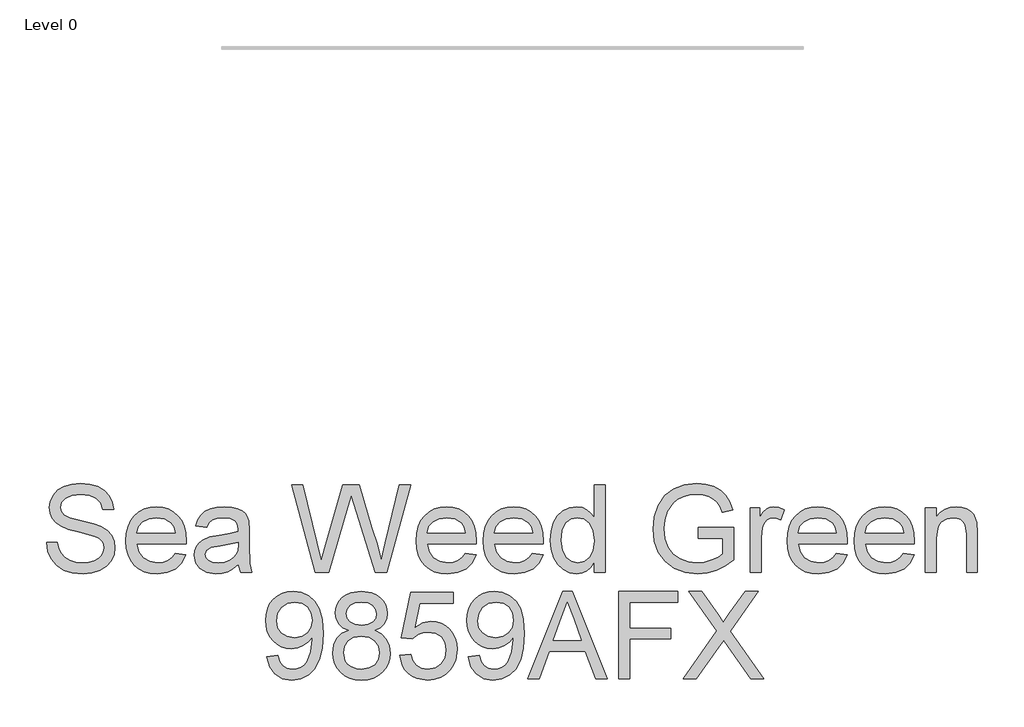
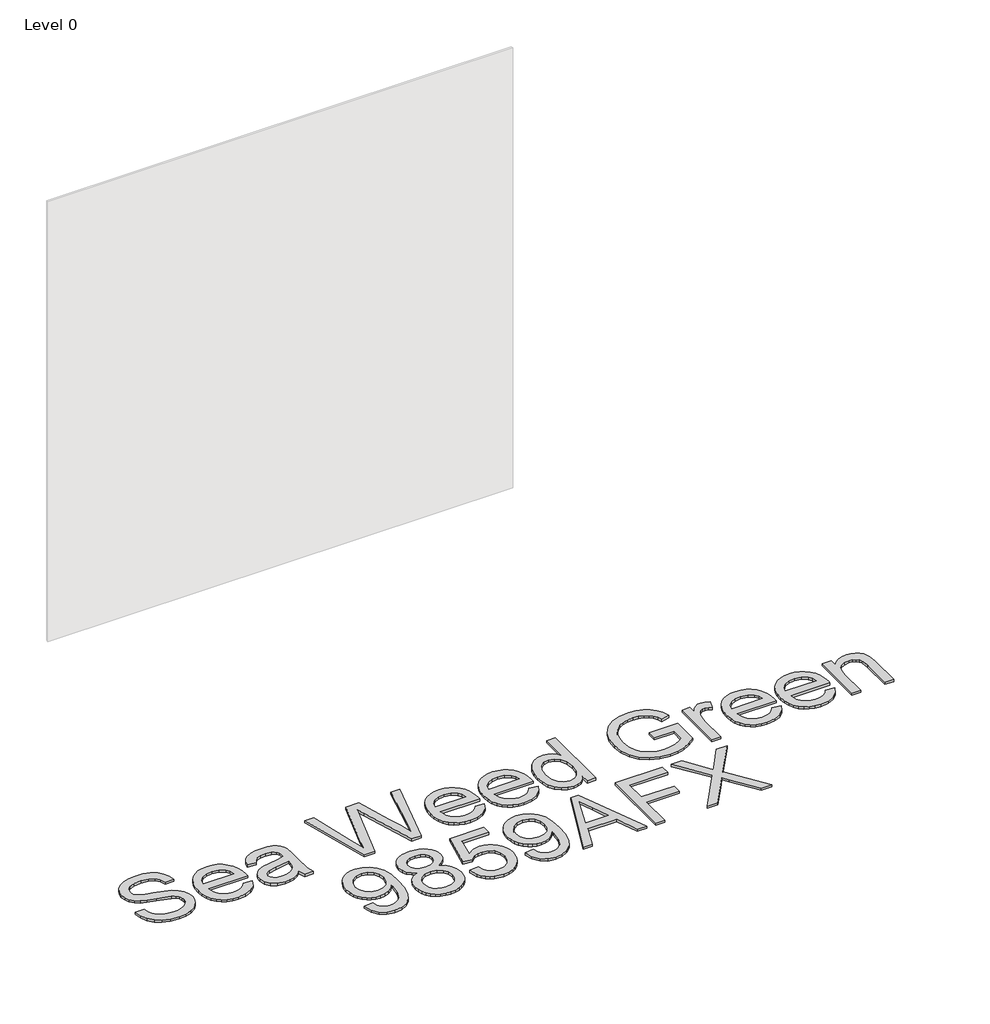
# One storey, part 6 of 10: 1 proxy.
"""IFC4 building model written with IfcOpenShell, lengths in millimetres."""

from ifc_helpers import new_model, si_unit, origin, origin_with_axes, place, context, project, spatial, polyline, outline, extrude, element, save

model = new_model("IFC4")

# Units and contexts
model_context = context("Model", 3, world=origin())
ifc_project = project(units=[si_unit("LENGTHUNIT", "METRE", prefix="MILLI")], contexts=[model_context])

# Site, building, storey
site = spatial("IfcSite", under=ifc_project)
building = spatial("IfcBuilding", under=site)
storey = spatial("IfcBuildingStorey", under=building, Name="Level 0", Elevation=0.0)

# Proxy
placement = place(None, origin())
element("IfcBuildingElementProxy", 1, Name="300mm Arial", ObjectType="300mm Arial", at=placement, inside=storey, context=model_context, shape_type="SweptSolid", body=[
    extrude(outline(polyline([(3945.9650559, -11909.2649241), (3983.6361722, -11909.2649241), (3987.9587857, -11930.1698185), (3995.7762781, -11946.9728286), (4007.9715662, -11960.308551), (4025.4275669, -11970.8115819), (4046.7647226, -11977.6265959), (4070.6034759, -11979.8982672), (4091.5911437, -11978.1784189), (4109.9668494, -11973.0188739), (4124.8568731, -11964.8518936), (4135.3874952, -11954.1097394), (4141.6506862, -11941.7764955), (4143.7384165, -11928.8362463), (4142.174918, -11916.2270909), (4137.4844226, -11905.3285868), (4127.9562789, -11896.0303694), (4111.8798357, -11888.222074), (4057.0286303, -11873.837888), (4021.02218, -11864.3189414), (3997.98357, -11855.2598472), (3979.2307853, -11842.5863125), (3965.9410483, -11827.2272392), (3958.0223883, -11809.5137211), (3955.382835, -11789.7768521), (3958.6477877, -11767.7131294), (3968.4426458, -11747.1393289), (3984.509892, -11729.7017223), (4006.5920087, -11717.0465817), (4033.0979065, -11709.3486509), (4062.4364956, -11706.782674), (4094.2215, -11709.4682126), (4122.0333788, -11717.5248283), (4144.8788507, -11730.7869742), (4161.7646343, -11749.0891034), (4172.4516062, -11771.2907818), (4176.7006433, -11796.2515752), (4139.029527, -11796.2515752), (4132.1133455, -11773.7739853), (4117.6923713, -11757.5503893), (4095.1595991, -11747.7279401), (4063.9080236, -11744.4537903), (4031.9206841, -11747.6911519), (4009.9765231, -11757.4032365), (3997.2845942, -11771.695452), (3993.0539513, -11788.6732061), (3996.0521896, -11803.1493626), (4005.0469043, -11814.7928278), (4026.3104837, -11825.2038882), (4066.5567739, -11835.8356779), (4108.0906512, -11845.9340387), (4133.2169915, -11854.7448125), (4154.6921029, -11868.4116286), (4169.6740972, -11885.2790181), (4178.4756739, -11905.1630399), (4181.4095328, -11927.8797531), (4178.0342155, -11951.102304), (4167.9082636, -11972.9452975), (4151.4455443, -11991.7440675), (4129.0599249, -12005.8339479), (4102.1401599, -12014.6355246), (4072.0750039, -12017.5693835), (4035.1672427, -12014.4055984), (4004.7893869, -12004.9142429), (3980.5919487, -11989.0585289), (3962.2254401, -11966.8016682), (3950.4348222, -11939.6887651), (3945.9650559, -11909.2649241)])), origin_with_axes(), (0.0, 0.0, 1.0), 10.0),
    extrude(outline(polyline([(4388.1592141, -11946.9360404), (4425.0945664, -11951.64493), (4411.7864353, -11979.4752029), (4390.5504471, -12000.2789297), (4361.8648485, -12013.2467701), (4326.2078861, -12017.5693835), (4302.8335839, -12015.7046817), (4282.0068644, -12010.1105761), (4263.7277278, -12000.7870668), (4247.996174, -11987.7341537), (4235.3456318, -11971.3151204), (4226.3095303, -11951.8932503), (4220.8878694, -11929.4685435), (4219.0806491, -11904.0409998), (4220.9062635, -11877.7512327), (4226.3831067, -11854.5792656), (4235.5111787, -11834.5250983), (4248.2904796, -11817.5887309), (4263.9806466, -11804.133447), (4281.8413175, -11794.5225298), (4301.8724921, -11788.7559796), (4324.0741706, -11786.8337961), (4345.5607783, -11788.751381), (4364.9918455, -11794.5041357), (4382.367372, -11804.0920602), (4397.6873578, -11817.5151545), (4410.1930464, -11834.4147337), (4419.1256811, -11854.4321128), (4424.4852619, -11877.5672917), (4426.2717888, -11903.8202706), (4426.0510596, -11913.9738137), (4256.7517654, -11913.9738137), (4263.2724738, -11942.1719686), (4278.420015, -11962.902119), (4300.2814025, -11975.6492302), (4326.9436501, -11979.8982672), (4346.9932189, -11977.9300985), (4363.8790024, -11972.0255925), (4377.6010009, -11961.8168672), (4388.1592141, -11946.9360404)]), holes=[polyline([(4256.7517654, -11876.3026974), (4388.6006725, -11876.3026974), (4383.5055069, -11856.4002814), (4373.5175107, -11842.1632482), (4351.5549556, -11828.9194964), (4323.9270178, -11824.5049125), (4298.533963, -11828.0273826), (4277.5370982, -11838.5947929), (4262.94138, -11855.0667092), (4256.7517654, -11876.3026974)])]), origin_with_axes(), (0.0, 0.0, 1.0), 10.0),
    extrude(outline(polyline([(4605.2095913, -11984.6071568), (4587.2109647, -12000.0398064), (4568.6789091, -12010.1381672), (4549.1903605, -12015.7115794), (4528.3222543, -12017.5693835), (4496.8407525, -12013.0996173), (4473.6182016, -11999.6903186), (4459.2983949, -11979.3280501), (4454.525126, -11953.9993748), (4456.3277478, -11938.3827841), (4461.7356132, -11924.2009331), (4470.0773374, -11912.0608273), (4480.6815359, -11902.5694718), (4507.058675, -11890.2086368), (4539.6530197, -11884.5432541), (4578.1702646, -11878.5835657), (4604.9888621, -11871.5938078), (4605.2095913, -11863.2060983), (4602.6160232, -11846.3938912), (4594.835319, -11835.3942195), (4577.4345006, -11827.2272392), (4553.1910772, -11824.5049125), (4530.7502754, -11826.3167313), (4515.0785025, -11831.7521878), (4504.3915305, -11841.8045633), (4496.9051319, -11857.4671392), (4459.2340156, -11852.7582497), (4465.773118, -11832.156858), (4475.531188, -11815.9700502), (4489.4187333, -11803.590821), (4508.3462619, -11794.4121652), (4531.4952365, -11788.7283884), (4558.0471195, -11786.8337961), (4583.5137506, -11788.5076592), (4603.7012751, -11793.5292485), (4618.9223926, -11801.0800264), (4629.489803, -11810.3414556), (4636.497955, -11821.7917827), (4641.0412976, -11835.9092543), (4642.8807076, -11868.8714811), (4642.8807076, -11915.7396473), (4644.793694, -11981.1858542), (4652.2984867, -12012.860494), (4614.6273703, -12012.860494), (4605.2095913, -11984.6071568)]), holes=[polyline([(4605.2095913, -11909.2649241), (4544.4354857, -11920.8164188), (4512.0250819, -11926.9232599), (4497.3465903, -11936.8560738), (4492.1962424, -11951.3506244), (4495.0013426, -11962.5526311), (4503.4166432, -11971.7312869), (4517.2582033, -11977.8565221), (4536.3420818, -11979.8982672), (4556.5755915, -11977.64499), (4574.4546565, -11970.8851583), (4588.9492071, -11960.9247533), (4599.0291738, -11949.069756), (4603.49894, -11936.8560738), (4604.9888621, -11919.933502), (4605.2095913, -11909.2649241)])]), origin_with_axes(), (0.0, 0.0, 1.0), 10.0),
    extrude(outline(polyline([(4871.041121, -12012.860494), (4788.8562833, -11711.4915635), (4827.704622, -11711.4915635), (4875.3821285, -11909.5592297), (4890.0974083, -11970.7012173), (4905.8427577, -11916.622564), (4965.5867937, -11711.4915635), (5021.5784334, -11711.4915635), (5064.9885088, -11860.189466), (5083.5849437, -11915.3717653), (5097.288548, -11970.7012173), (5111.5623694, -11911.3250633), (5159.6813344, -11711.4915635), (5198.5296731, -11711.4915635), (5116.271259, -12012.860494), (5076.0249687, -12012.860494), (5003.7729448, -11780.359073), (4993.6929782, -11747.9118811), (4982.3622127, -11786.9809489), (4916.5113356, -12012.860494), (4871.041121, -12012.860494)])), origin_with_axes(), (0.0, 0.0, 1.0), 10.0),
    extrude(outline(polyline([(5386.4437962, -11946.9360404), (5423.3791485, -11951.64493), (5410.0710174, -11979.4752029), (5388.8350292, -12000.2789297), (5360.1494306, -12013.2467701), (5324.4924682, -12017.5693835), (5301.118166, -12015.7046817), (5280.2914465, -12010.1105761), (5262.0123099, -12000.7870668), (5246.2807561, -11987.7341537), (5233.630214, -11971.3151204), (5224.5941125, -11951.8932503), (5219.1724515, -11929.4685435), (5217.3652312, -11904.0409998), (5219.1908456, -11877.7512327), (5224.6676888, -11854.5792656), (5233.7957609, -11834.5250983), (5246.5750617, -11817.5887309), (5262.2652288, -11804.133447), (5280.1258996, -11794.5225298), (5300.1570743, -11788.7559796), (5322.3587527, -11786.8337961), (5343.8453604, -11788.751381), (5363.2764276, -11794.5041357), (5380.6519541, -11804.0920602), (5395.9719399, -11817.5151545), (5408.4776285, -11834.4147337), (5417.4102632, -11854.4321128), (5422.769844, -11877.5672917), (5424.5563709, -11903.8202706), (5424.3356417, -11913.9738137), (5255.0363476, -11913.9738137), (5261.5570559, -11942.1719686), (5276.7045971, -11962.902119), (5298.5659846, -11975.6492302), (5325.2282322, -11979.8982672), (5345.277801, -11977.9300985), (5362.1635845, -11972.0255925), (5375.885583, -11961.8168672), (5386.4437962, -11946.9360404)]), holes=[polyline([(5255.0363476, -11876.3026974), (5386.8852546, -11876.3026974), (5381.790089, -11856.4002814), (5371.8020928, -11842.1632482), (5349.8395377, -11828.9194964), (5322.2115999, -11824.5049125), (5296.8185452, -11828.0273826), (5275.8216803, -11838.5947929), (5261.2259621, -11855.0667092), (5255.0363476, -11876.3026974)])]), origin_with_axes(), (0.0, 0.0, 1.0), 10.0),
    extrude(outline(polyline([(5617.1793836, -11946.9360404), (5654.1147359, -11951.64493), (5640.8066047, -11979.4752029), (5619.5706166, -12000.2789297), (5590.885018, -12013.2467701), (5555.2280556, -12017.5693835), (5531.8537533, -12015.7046817), (5511.0270339, -12010.1105761), (5492.7478973, -12000.7870668), (5477.0163434, -11987.7341537), (5464.3658013, -11971.3151204), (5455.3296998, -11951.8932503), (5449.9080389, -11929.4685435), (5448.1008186, -11904.0409998), (5449.926433, -11877.7512327), (5455.4032762, -11854.5792656), (5464.5313482, -11834.5250983), (5477.310649, -11817.5887309), (5493.0008161, -11804.133447), (5510.861487, -11794.5225298), (5530.8926616, -11788.7559796), (5553.09434, -11786.8337961), (5574.5809478, -11788.751381), (5594.012015, -11794.5041357), (5611.3875414, -11804.0920602), (5626.7075273, -11817.5151545), (5639.2132159, -11834.4147337), (5648.1458505, -11854.4321128), (5653.5054314, -11877.5672917), (5655.2919583, -11903.8202706), (5655.0712291, -11913.9738137), (5485.7719349, -11913.9738137), (5492.2926433, -11942.1719686), (5507.4401844, -11962.902119), (5529.301572, -11975.6492302), (5555.9638196, -11979.8982672), (5576.0133883, -11977.9300985), (5592.8991719, -11972.0255925), (5606.6211703, -11961.8168672), (5617.1793836, -11946.9360404)]), holes=[polyline([(5485.7719349, -11876.3026974), (5617.620842, -11876.3026974), (5612.5256764, -11856.4002814), (5602.5376802, -11842.1632482), (5580.5751251, -11828.9194964), (5552.9471872, -11824.5049125), (5527.5541325, -11828.0273826), (5506.5572677, -11838.5947929), (5491.9615495, -11855.0667092), (5485.7719349, -11876.3026974)])]), origin_with_axes(), (0.0, 0.0, 1.0), 10.0),
    extrude(outline(polyline([(5829.5208712, -12012.860494), (5829.5208712, -11977.3230932), (5818.2498866, -11994.9308452), (5804.596866, -12007.507811), (5788.5618096, -12015.0539904), (5770.1447172, -12017.5693835), (5745.7909291, -12013.9273518), (5723.4972802, -12003.0012565), (5704.6249339, -11985.5544529), (5690.5350534, -11962.350296), (5681.7610679, -11934.3268851), (5678.836406, -11902.422319), (5681.5311416, -11870.9132261), (5689.6153485, -11842.4575538), (5703.0798295, -11818.6739828), (5721.9153876, -11801.181194), (5744.6964802, -11790.4206456), (5769.9975644, -11786.8337961), (5788.4284524, -11789.3997731), (5804.7256247, -11797.0977038), (5818.5395937, -11808.8975188), (5829.5208712, -11823.7691485), (5829.5208712, -11711.4915635), (5867.1919875, -11711.4915635), (5867.1919875, -12012.860494), (5829.5208712, -12012.860494)]), holes=[polyline([(5716.5075223, -11902.2751662), (5720.7565593, -11936.350236), (5733.5036705, -11960.5844625), (5752.0265289, -11975.069816), (5773.602808, -11979.8982672), (5795.1698899, -11975.2905452), (5813.2236988, -11961.4673793), (5825.4465781, -11938.1712519), (5829.5208712, -11905.1446458), (5825.3730017, -11869.037028), (5812.9293932, -11844.0026582), (5794.4157318, -11829.3793489), (5772.0577036, -11824.5049125), (5750.2606954, -11829.1862108), (5732.4000245, -11843.230106), (5720.4806478, -11867.3539678), (5716.5075223, -11902.2751662)])]), origin_with_axes(), (0.0, 0.0, 1.0), 10.0),
    extrude(outline(polyline([(6187.3964761, -11895.1382555), (6187.3964761, -11857.4671392), (6309.8276041, -11857.4671392), (6309.8276041, -11970.1126061), (6280.0751478, -11990.8059684), (6249.3845923, -12005.6500069), (6217.8295142, -12014.5895394), (6185.4834898, -12017.5693835), (6143.2230456, -12012.8329028), (6105.0276974, -11998.6234608), (6073.2978753, -11975.437698), (6050.4340093, -11943.7722553), (6036.6108434, -11905.7884393), (6032.0031214, -11863.6475567), (6036.5924493, -11821.2031715), (6050.3604329, -11781.7202364), (6072.7368553, -11748.6016598), (6103.1514992, -11725.2503502), (6140.1972161, -11711.399593), (6182.4668574, -11706.782674), (6213.4977037, -11709.4590155), (6241.401553, -11717.4880401), (6264.9000155, -11730.2903335), (6282.7147011, -11747.2864817), (6295.8940736, -11769.295022), (6305.4865966, -11797.134492), (6270.7585362, -11806.9201531), (6263.0054232, -11787.0637224), (6253.5784471, -11772.0817281), (6241.1072474, -11760.7877509), (6224.2214638, -11751.9953712), (6204.0891217, -11746.3391855), (6181.8782462, -11744.4537903), (6155.8781862, -11746.4863383), (6133.6489166, -11752.5839824), (6115.273211, -11761.9833674), (6100.8338427, -11773.9211381), (6081.4464615, -11802.9470275), (6072.6172936, -11831.3843058), (6069.6742377, -11862.1024524), (6073.2151019, -11898.1272967), (6083.8376945, -11927.7693885), (6101.2201188, -11950.8171955), (6125.0404779, -11967.0591856), (6152.9167361, -11976.6884968), (6182.4668574, -11979.8982672), (6208.5588879, -11977.4794431), (6234.0071249, -11970.2229707), (6256.1076358, -11960.2257775), (6272.1564878, -11949.5847908), (6272.1564878, -11895.1382555), (6187.3964761, -11895.1382555)])), origin_with_axes(), (0.0, 0.0, 1.0), 10.0),
    extrude(outline(polyline([(6366.3342786, -12012.860494), (6366.3342786, -11791.5426857), (6399.2965053, -11791.5426857), (6399.2965053, -11824.2841833), (6411.4733994, -11805.3014723), (6422.6938002, -11794.1178596), (6433.9509893, -11788.654812), (6446.2382479, -11786.8337961), (6465.0002297, -11789.7400639), (6484.056517, -11798.4588672), (6471.4749528, -11832.2304343), (6458.231201, -11826.4362929), (6444.9874492, -11824.5049125), (6433.7394571, -11826.3627165), (6423.6870816, -11831.9361288), (6415.5660866, -11840.8020848), (6410.112236, -11852.5375205), (6405.5321052, -11873.5803706), (6404.0053949, -11896.5362071), (6404.0053949, -12012.860494), (6366.3342786, -12012.860494)])), origin_with_axes(), (0.0, 0.0, 1.0), 10.0),
    extrude(outline(polyline([(6662.5528611, -11946.9360404), (6699.4882134, -11951.64493), (6686.1800822, -11979.4752029), (6664.9440941, -12000.2789297), (6636.2584955, -12013.2467701), (6600.6015331, -12017.5693835), (6577.2272308, -12015.7046817), (6556.4005114, -12010.1105761), (6538.1213748, -12000.7870668), (6522.3898209, -11987.7341537), (6509.7392788, -11971.3151204), (6500.7031773, -11951.8932503), (6495.2815164, -11929.4685435), (6493.4742961, -11904.0409998), (6495.2999105, -11877.7512327), (6500.7767537, -11854.5792656), (6509.9048257, -11834.5250983), (6522.6841265, -11817.5887309), (6538.3742936, -11804.133447), (6556.2349645, -11794.5225298), (6576.2661391, -11788.7559796), (6598.4678175, -11786.8337961), (6619.9544253, -11788.751381), (6639.3854925, -11794.5041357), (6656.7610189, -11804.0920602), (6672.0810048, -11817.5151545), (6684.5866933, -11834.4147337), (6693.519328, -11854.4321128), (6698.8789089, -11877.5672917), (6700.6654358, -11903.8202706), (6700.4447066, -11913.9738137), (6531.1454124, -11913.9738137), (6537.6661208, -11942.1719686), (6552.8136619, -11962.902119), (6574.6750495, -11975.6492302), (6601.3372971, -11979.8982672), (6621.3868658, -11977.9300985), (6638.2726494, -11972.0255925), (6651.9946478, -11961.8168672), (6662.5528611, -11946.9360404)]), holes=[polyline([(6531.1454124, -11876.3026974), (6662.9943195, -11876.3026974), (6657.8991539, -11856.4002814), (6647.9111577, -11842.1632482), (6625.9486026, -11828.9194964), (6598.3206647, -11824.5049125), (6572.92761, -11828.0273826), (6551.9307451, -11838.5947929), (6537.335027, -11855.0667092), (6531.1454124, -11876.3026974)])]), origin_with_axes(), (0.0, 0.0, 1.0), 10.0),
    extrude(outline(polyline([(6893.2884485, -11946.9360404), (6930.2238008, -11951.64493), (6916.9156696, -11979.4752029), (6895.6796814, -12000.2789297), (6866.9940829, -12013.2467701), (6831.3371205, -12017.5693835), (6807.9628182, -12015.7046817), (6787.1360988, -12010.1105761), (6768.8569621, -12000.7870668), (6753.1254083, -11987.7341537), (6740.4748662, -11971.3151204), (6731.4387647, -11951.8932503), (6726.0171038, -11929.4685435), (6724.2098835, -11904.0409998), (6726.0354979, -11877.7512327), (6731.5123411, -11854.5792656), (6740.6404131, -11834.5250983), (6753.4197139, -11817.5887309), (6769.109881, -11804.133447), (6786.9705519, -11794.5225298), (6807.0017265, -11788.7559796), (6829.2034049, -11786.8337961), (6850.6900127, -11788.751381), (6870.1210798, -11794.5041357), (6887.4966063, -11804.0920602), (6902.8165921, -11817.5151545), (6915.3222807, -11834.4147337), (6924.2549154, -11854.4321128), (6929.6144962, -11877.5672917), (6931.4010232, -11903.8202706), (6931.180294, -11913.9738137), (6761.8809998, -11913.9738137), (6768.4017082, -11942.1719686), (6783.5492493, -11962.902119), (6805.4106369, -11975.6492302), (6832.0728845, -11979.8982672), (6852.1224532, -11977.9300985), (6869.0082368, -11972.0255925), (6882.7302352, -11961.8168672), (6893.2884485, -11946.9360404)]), holes=[polyline([(6761.8809998, -11876.3026974), (6893.7299069, -11876.3026974), (6888.6347412, -11856.4002814), (6878.6467451, -11842.1632482), (6856.68419, -11828.9194964), (6829.0562521, -11824.5049125), (6803.6631974, -11828.0273826), (6782.6663325, -11838.5947929), (6768.0706144, -11855.0667092), (6761.8809998, -11876.3026974)])]), origin_with_axes(), (0.0, 0.0, 1.0), 10.0),
    extrude(outline(polyline([(6969.0721395, -12012.860494), (6969.0721395, -11791.5426857), (7006.7432558, -11791.5426857), (7006.7432558, -11822.4447733), (7019.8306578, -11806.8649708), (7035.548416, -11795.7365404), (7053.8965305, -11789.0594822), (7074.8750013, -11786.8337961), (7093.443845, -11788.6272209), (7110.4491902, -11794.0074951), (7124.6310411, -11802.303234), (7134.7294019, -11812.8430532), (7146.0233792, -11840.5445674), (7148.0099419, -11876.964885), (7148.0099419, -12012.860494), (7110.3388256, -12012.860494), (7110.3388256, -11882.0416565), (7105.9978181, -11848.7115477), (7099.9921445, -11838.7879309), (7090.6571389, -11831.0900002), (7078.691777, -11826.1511844), (7064.7950346, -11824.5049125), (7042.731312, -11828.2021265), (7023.923345, -11839.2937687), (7016.4070559, -11848.3482643), (7011.0382781, -11860.7228949), (7006.7432558, -11895.4325611), (7006.7432558, -12012.860494), (6969.0721395, -12012.860494)])), origin_with_axes(), (0.0, 0.0, 1.0), 10.0),
    extrude(outline(polyline([(4704.0962716, -12303.4427149), (4741.7673879, -12298.7338254), (4748.2053228, -12320.1169663), (4758.6899597, -12334.6758963), (4772.9637811, -12343.0360146), (4790.7692696, -12345.8227207), (4806.7445453, -12344.029296), (4821.266687, -12338.6490218), (4833.3332165, -12330.2705094), (4841.9416552, -12319.4823699), (4854.265702, -12286.7408723), (4859.7103555, -12243.0364913), (4859.4896263, -12235.6788514), (4846.4390126, -12251.6081418), (4829.3600909, -12264.2264942), (4809.4852661, -12272.4486568), (4788.0469429, -12275.1893777), (4770.1517831, -12273.5155146), (4753.6959616, -12268.4939254), (4738.6794784, -12260.12461), (4725.1023335, -12248.4075684), (4713.8520422, -12233.9544045), (4705.8161199, -12217.3767221), (4700.9945665, -12198.6745212), (4699.387382, -12177.8478018), (4701.0727414, -12156.326705), (4706.1288196, -12137.0129003), (4714.5556165, -12119.9063875), (4726.3531323, -12105.0071667), (4740.6890338, -12092.9360387), (4756.730988, -12084.3138045), (4774.478995, -12079.1404639), (4793.9330548, -12077.4160171), (4822.0300422, -12081.3523544), (4847.6070379, -12093.1613665), (4868.9993759, -12112.254442), (4884.5423902, -12138.0429699), (4894.0061545, -12173.6907352), (4897.1607426, -12222.3615232), (4894.0153516, -12273.96617), (4884.5791784, -12313.8537754), (4868.9349966, -12343.8269609), (4847.1655795, -12365.6883485), (4820.2090263, -12379.0424649), (4789.0034361, -12383.4938371), (4756.7953674, -12378.2423216), (4731.09881, -12362.4877751), (4713.1277746, -12337.2234791), (4704.0962716, -12303.4427149)]), holes=[polyline([(4859.4896263, -12176.964885), (4855.4245303, -12151.4338745), (4843.2292422, -12131.788976), (4824.3017135, -12119.262594), (4800.0398959, -12115.0871334), (4774.8767674, -12119.5844908), (4754.7168341, -12133.0765629), (4741.4730823, -12153.7239399), (4737.0584983, -12179.6872117), (4741.233959, -12202.964945), (4753.7603409, -12221.4418182), (4773.4236336, -12233.4991506), (4799.0098263, -12237.5182614), (4823.0785059, -12233.4991506), (4842.45669, -12221.4418182), (4855.2313922, -12202.2843633), (4859.4896263, -12176.964885)])]), origin_with_axes(), (0.0, 0.0, 1.0), 10.0),
    extrude(outline(polyline([(4985.0109631, -12212.7965913), (4964.8418327, -12202.8637774), (4950.6875729, -12189.3992964), (4942.3274546, -12172.6790597), (4939.5407485, -12152.9789789), (4941.0582617, -12137.6153071), (4945.6108014, -12123.5300252), (4953.1983676, -12110.7231332), (4963.8209602, -12099.1946312), (4976.968143, -12089.6664875), (4992.1294797, -12082.8606706), (5028.4946149, -12077.4160171), (5065.0804793, -12082.9894293), (5080.407363, -12089.9561946), (5093.7568809, -12099.709666), (5104.5726115, -12111.4634957), (5112.2981334, -12124.4313361), (5116.9334466, -12138.613187), (5118.4785509, -12154.0090485), (5115.728633, -12173.0745329), (5107.4788793, -12189.509661), (5093.6373192, -12202.8913686), (5074.1119823, -12212.7965913), (5097.2977451, -12224.7435591), (5114.1743316, -12242.3375155), (5124.4658304, -12264.732332), (5127.89633, -12291.0818799), (5126.1948758, -12309.8714528), (5121.0905131, -12327.0975272), (5112.583242, -12342.7601031), (5100.6730624, -12356.8591806), (5085.9853737, -12368.5118428), (5069.1455754, -12376.8351729), (5050.1536674, -12381.829171), (5029.0096497, -12383.4938371), (5007.865632, -12381.8222732), (4988.873724, -12376.8075818), (4972.0339257, -12368.4497627), (4957.3462371, -12356.748816), (4945.4360575, -12342.5508703), (4936.9287863, -12326.702054), (4931.8244236, -12309.2023674), (4930.1229694, -12290.0518103), (4933.6914248, -12262.6813898), (4944.3967908, -12240.1670117), (4961.6872446, -12223.2812282), (4985.0109631, -12212.7965913)]), holes=[polyline([(4977.2118648, -12154.0826249), (4980.5503939, -12170.52695), (4990.5659812, -12183.6603373), (5006.9643212, -12192.268776), (5029.4511081, -12195.1382555), (5051.4136632, -12192.2871701), (5067.5636828, -12183.7339137), (5077.4964967, -12171.0419848), (5080.8074346, -12155.774882), (5077.3861321, -12139.9283651), (5067.1222244, -12126.822569), (5050.7514756, -12118.0209923), (5029.0096497, -12115.0871334), (5007.1298681, -12117.9566129), (4990.7867104, -12126.5650516), (4980.6055762, -12139.1834041), (4977.2118648, -12154.0826249)]), polyline([(4967.7940857, -12288.7274351), (4974.0848678, -12317.0911369), (4982.7944741, -12329.2588339), (4996.3417285, -12338.317928), (5012.5653245, -12343.9465226), (5029.3039553, -12345.8227207), (5054.9453304, -12341.8771864), (5074.1855587, -12330.0405832), (5086.2153, -12312.1155329), (5090.2252137, -12289.9046575), (5086.0865413, -12267.316703), (5073.6705239, -12248.9961796), (5053.9888372, -12236.8560738), (5028.0531565, -12232.8093718), (5002.7704664, -12236.8008915), (4983.7233761, -12248.7754504), (4971.7764083, -12266.7464859), (4967.7940857, -12288.7274351)])]), origin_with_axes(), (0.0, 0.0, 1.0), 10.0),
    extrude(outline(polyline([(5160.8585568, -12298.7338254), (5198.5296731, -12294.0249358), (5205.4458546, -12316.6404815), (5217.512384, -12332.8364863), (5234.6740791, -12342.5761621), (5256.8757575, -12345.8227207), (5283.878296, -12341.3069693), (5304.1118057, -12327.7597148), (5316.7485522, -12306.7444558), (5320.9608011, -12279.8246908), (5317.0152667, -12254.4776213), (5305.1786635, -12235.0902402), (5285.359021, -12222.7845875), (5257.4643687, -12218.6827032), (5239.1898306, -12220.3197781), (5224.3917774, -12225.2310027), (5203.2385626, -12242.2271509), (5165.5674463, -12237.5182614), (5198.5296731, -12082.1249066), (5344.5052488, -12082.1249066), (5344.5052488, -12119.7960229), (5228.9903023, -12119.7960229), (5212.8770709, -12202.790201), (5239.7876389, -12186.4562404), (5267.9857938, -12181.0115869), (5286.331609, -12182.6992456), (5303.1829037, -12187.7622215), (5318.5396777, -12196.2005148), (5332.4019311, -12208.0141254), (5343.8775501, -12222.4810848), (5352.0744208, -12238.8794248), (5356.9925433, -12257.2091452), (5358.6319174, -12277.470246), (5352.7274114, -12315.1413624), (5345.3467788, -12331.9351754), (5335.0138933, -12347.3678251), (5319.3605144, -12363.1729553), (5301.0951733, -12374.4623341), (5280.2178701, -12381.2359613), (5256.7286047, -12383.4938371), (5219.7288731, -12377.6904986), (5204.0502023, -12370.4363255), (5190.2523282, -12360.2804832), (5178.7721107, -12347.7288093), (5170.0464096, -12333.2871418), (5160.8585568, -12298.7338254)])), origin_with_axes(), (0.0, 0.0, 1.0), 10.0),
    extrude(outline(polyline([(5396.3030337, -12303.4427149), (5433.97415, -12298.7338254), (5440.4120849, -12320.1169663), (5450.8967218, -12334.6758963), (5465.1705432, -12343.0360146), (5482.9760318, -12345.8227207), (5498.9513074, -12344.029296), (5513.4734492, -12338.6490218), (5525.5399786, -12330.2705094), (5534.1484173, -12319.4823699), (5546.4724641, -12286.7408723), (5551.9171177, -12243.0364913), (5551.6963885, -12235.6788514), (5538.6457747, -12251.6081418), (5521.5668531, -12264.2264942), (5501.6920283, -12272.4486568), (5480.253705, -12275.1893777), (5462.3585452, -12273.5155146), (5445.9027237, -12268.4939254), (5430.8862405, -12260.12461), (5417.3090956, -12248.4075684), (5406.0588044, -12233.9544045), (5398.022882, -12217.3767221), (5393.2013286, -12198.6745212), (5391.5941442, -12177.8478018), (5393.2795036, -12156.326705), (5398.3355817, -12137.0129003), (5406.7623787, -12119.9063875), (5418.5598944, -12105.0071667), (5432.8957959, -12092.9360387), (5448.9377502, -12084.3138045), (5466.6857572, -12079.1404639), (5486.1398169, -12077.4160171), (5514.2368043, -12081.3523544), (5539.8138, -12093.1613665), (5561.206138, -12112.254442), (5576.7491523, -12138.0429699), (5586.2129167, -12173.6907352), (5589.3675048, -12222.3615232), (5586.2221137, -12273.96617), (5576.7859405, -12313.8537754), (5561.1417587, -12343.8269609), (5539.3723416, -12365.6883485), (5512.4157884, -12379.0424649), (5481.2101982, -12383.4938371), (5449.0021295, -12378.2423216), (5423.3055721, -12362.4877751), (5405.3345367, -12337.2234791), (5396.3030337, -12303.4427149)]), holes=[polyline([(5551.6963885, -12176.964885), (5547.6312924, -12151.4338745), (5535.4360043, -12131.788976), (5516.5084756, -12119.262594), (5492.246658, -12115.0871334), (5467.0835296, -12119.5844908), (5446.9235962, -12133.0765629), (5433.6798444, -12153.7239399), (5429.2652605, -12179.6872117), (5433.4407211, -12202.964945), (5445.967103, -12221.4418182), (5465.6303957, -12233.4991506), (5491.2165885, -12237.5182614), (5515.285268, -12233.4991506), (5534.6634521, -12221.4418182), (5547.4381544, -12202.2843633), (5551.6963885, -12176.964885)])]), origin_with_axes(), (0.0, 0.0, 1.0), 10.0),
    extrude(outline(polyline([(5601.3604578, -12378.7849475), (5721.6578702, -12077.4160171), (5753.7371802, -12077.4160171), (5874.0345926, -12378.7849475), (5834.2297608, -12378.7849475), (5799.7224296, -12284.6071568), (5675.5990444, -12284.6071568), (5641.1652897, -12378.7849475), (5601.3604578, -12378.7849475)]), holes=[polyline([(5689.4314075, -12246.9360404), (5785.963643, -12246.9360404), (5758.8139517, -12172.8446066), (5737.6975252, -12115.0871334), (5718.9355435, -12166.3698835), (5689.4314075, -12246.9360404)])]), origin_with_axes(), (0.0, 0.0, 1.0), 10.0),
    extrude(outline(polyline([(5914.2808829, -12378.7849475), (5914.2808829, -12077.4160171), (6116.7631331, -12077.4160171), (6116.7631331, -12115.0871334), (5951.9519992, -12115.0871334), (5951.9519992, -12204.5560346), (6093.2186854, -12204.5560346), (6093.2186854, -12242.2271509), (5951.9519992, -12242.2271509), (5951.9519992, -12378.7849475), (5914.2808829, -12378.7849475)])), origin_with_axes(), (0.0, 0.0, 1.0), 10.0),
    extrude(outline(polyline([(6135.5986912, -12378.7849475), (6251.7758253, -12214.5624249), (6154.4342494, -12077.4160171), (6199.6101584, -12077.4160171), (6254.4245756, -12154.5976597), (6272.8922518, -12184.6904069), (6294.5237131, -12154.0826249), (6348.7495192, -12077.4160171), (6394.5876158, -12077.4160171), (6297.2460399, -12215.0038833), (6413.423174, -12378.7849475), (6368.247265, -12378.7849475), (6290.8448932, -12269.5975713), (6274.7316618, -12246.9360404), (6256.9997496, -12271.8048633), (6181.4367878, -12378.7849475), (6135.5986912, -12378.7849475)])), origin_with_axes(), (0.0, 0.0, 1.0), 10.0),
])

save(model, "model.ifc")
